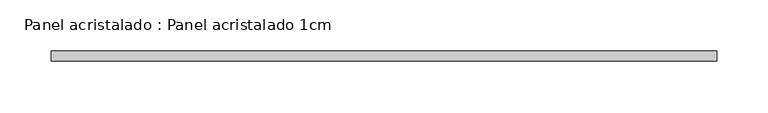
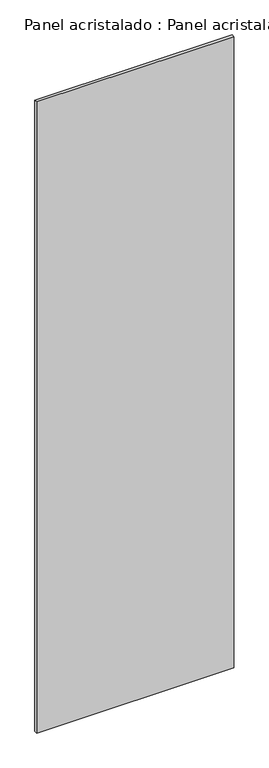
"""IFC4 building model written with IfcOpenShell, lengths in millimetres: plate geometry, Panel acristalado : Panel acristalado 1cm."""

from ifc_helpers import new_model, si_unit, origin, origin_with_axes, place, context, project, spatial, polyline, outline, extrude, source, transform, mapped, element, save


def panel_acristalado_panel_acristalado_1cm_45a3c1e2(model_context):
    return source(origin(), model_context, "Body", "SweptSolid", [
        extrude(outline(polyline([(325.0, 20.0), (-325.0, 20.0), (-325.0, 30.0), (325.0, 30.0), (325.0, 20.0)])), origin_with_axes(), (0.0, 0.0, 1.0), 2200.0),
    ])


if __name__ == "__main__":
    model = new_model("IFC4")
    model_context = context("Model", 3, world=origin())
    ifc_project = project(units=[si_unit("LENGTHUNIT", "METRE", prefix="MILLI")], contexts=[model_context])
    site = spatial("IfcSite", under=ifc_project)
    building = spatial("IfcBuilding", under=site)
    placement = place(None, origin())
    panel_acristalado_panel_acristalado_1cm_shape = panel_acristalado_panel_acristalado_1cm_45a3c1e2(model_context)
    element("IfcPlate", 1, ObjectType="Panel acristalado : Panel acristalado 1cm", at=placement, inside=building, context=model_context, shape_type="MappedRepresentation", body=[
        mapped(panel_acristalado_panel_acristalado_1cm_shape, transform((0.0, 0.0, 0.0), x_axis=(1.0, 0.0, 0.0), y_axis=(0.0, 1.0, 0.0), z_axis=(0.0, 0.0, 1.0))),
    ])
    save(model, "model.ifc")
